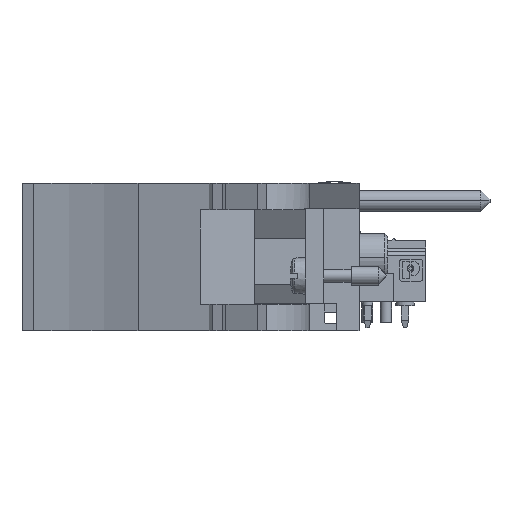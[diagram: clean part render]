
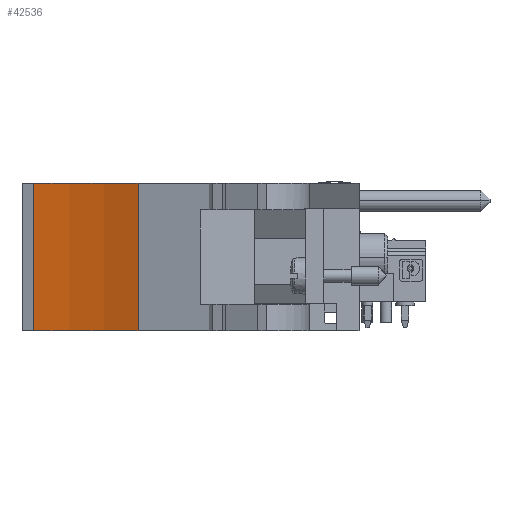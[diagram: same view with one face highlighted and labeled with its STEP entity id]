
A CAD part, front view. The second image highlights one B-rep face of the part: STEP entity #42536.
In plain terms, the highlighted cylindrical face has radius 51.46 mm (diameter 102.919 mm), a partial arc.
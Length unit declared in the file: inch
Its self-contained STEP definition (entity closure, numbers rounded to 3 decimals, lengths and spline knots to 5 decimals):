
#33481=CARTESIAN_POINT('',(-1.97633,-5.95079,0.695));
#33482=DIRECTION('',(0.,0.,1.));
#33483=DIRECTION('',(0.435,0.9,0.));
#33484=AXIS2_PLACEMENT_3D('',#33481,#33482,#33483);
#33826=CARTESIAN_POINT('',(-1.97633,-5.95079,-0.093));
#33827=DIRECTION('',(0.,0.,1.));
#33828=DIRECTION('',(0.435,0.9,0.));
#33829=AXIS2_PLACEMENT_3D('',#33826,#33827,#33828);
#34044=DIRECTION('',(0.,0.,1.));
#34045=VECTOR('',#34044,0.788);
#34046=CARTESIAN_POINT('',(-1.653,-3.95079,-0.093));
#34047=LINE('',#34046,#34045);
#34052=DIRECTION('',(0.,0.,1.));
#34053=VECTOR('',#34052,0.788);
#34054=CARTESIAN_POINT('',(-1.09503,-4.12655,-0.093));
#34055=LINE('',#34054,#34053);
#38644=CARTESIAN_POINT('',(-1.09503,-4.12655,-0.093));
#38645=CARTESIAN_POINT('',(-1.653,-3.95079,-0.093));
#38646=VERTEX_POINT('',#38644);
#38647=VERTEX_POINT('',#38645);
#38648=CARTESIAN_POINT('',(-1.09503,-4.12655,0.695));
#38649=CARTESIAN_POINT('',(-1.653,-3.95079,0.695));
#38650=VERTEX_POINT('',#38648);
#38651=VERTEX_POINT('',#38649);
#42524=CARTESIAN_POINT('',(-1.97633,-5.95079,0.695));
#42525=DIRECTION('',(0.,0.,1.));
#42526=DIRECTION('',(0.,1.,0.));
#42527=AXIS2_PLACEMENT_3D('',#42524,#42525,#42526);
#42528=CYLINDRICAL_SURFACE('',#42527,2.02597);
#42529=ORIENTED_EDGE('',*,*,#42242,.T.);
#42530=ORIENTED_EDGE('',*,*,#42516,.T.);
#42531=ORIENTED_EDGE('',*,*,#41791,.F.);
#42533=ORIENTED_EDGE('',*,*,#42532,.F.);
#42534=EDGE_LOOP('',(#42529,#42530,#42531,#42533));
#42535=FACE_OUTER_BOUND('',#42534,.F.);
#42536=ADVANCED_FACE('',(#42535),#42528,.F.);
#33485=CIRCLE('',#33484,2.02597);
#33830=CIRCLE('',#33829,2.02597);
#41791=EDGE_CURVE('',#38650,#38651,#33485,.T.);
#42242=EDGE_CURVE('',#38646,#38647,#33830,.T.);
#42516=EDGE_CURVE('',#38647,#38651,#34047,.T.);
#42532=EDGE_CURVE('',#38646,#38650,#34055,.T.);
